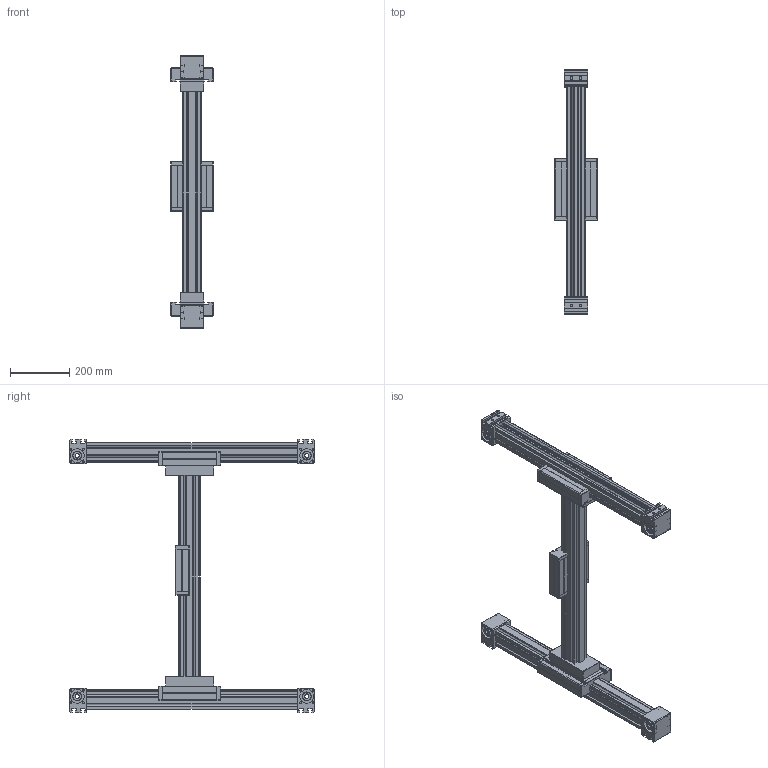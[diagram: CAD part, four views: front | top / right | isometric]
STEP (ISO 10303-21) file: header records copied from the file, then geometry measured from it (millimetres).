
FILE_DESCRIPTION (( 'STEP AP214' ), '1' );
FILE_NAME ('ELZU-60.STEP', '2016-01-14T10:13:25', ( 'admin' ), ( '' ), 'SwSTEP 2.0', 'SolidWorks 2015', '' );
FILE_SCHEMA (( 'AUTOMOTIVE_DESIGN' ));
Length unit declared in the file: millimetre
Products named in the file (10): Umlenkung ELZU 60 - ED; Kopie von Bahr-ELZU-X-Axis - ELZU-607000041926,  Y-Axis - ELZU-608000041830_ELZ60 Carriage (X)^ELZU60 S0 A0_A; Kopie von Bahr-ELZU-X-Axis - ELZU-607000041926,  Y-Axis - ELZU-608000041830_ELZ60 Carriage (Y)^ELZU60 S0 A0_A; Kopie von Bahr-ELZU-X-Axis - ELZU-607000041926,  Y-Axis - ELZU-608000041830_ELZ60 Extrusion (X)^ELZU60 S0 A0_0; Kopie von Bahr-ELZU-X-Axis - ELZU-607000041926,  Y-Axis - ELZU-608000041830_ELZ60 Extrusion (Y)^ELZU60 S0 A0_0; Kopie von Bahr-ELZU-X-Axis - ELZU-607000041926,  Y-Axis - ELZU-608000041830_End_Block(4)^ELZU60 S0 A0_ELZ-60-B; Kopie von Bahr-ELZU-X-Axis - ELZU-607000041926,  Y-Axis - ELZU-608000041830_End_Block(3)^ELZU60 S0 A0_ELZ-60-A; Kopie von Bahr-ELZU-X-Axis - ELZU-607000041926,  Y-Axis - ELZU-608000041830_End_Block(2)^ELZU60 S0 A0_ELZ-60-A; Kopie von Bahr-ELZU-X-Axis - ELZU-607000041926,  Y-Axis - ELZU-608000041830_End_Block(1)^ELZU60 S0 A0_ELZ-60-B; ELZU-60
Assembly tree (12 placements, depth 2):
  ELZU-60
    Kopie von Bahr-ELZU-X-Axis - ELZU-607000041926,  Y-Axis - ELZU-608000041830_End_Block(1)^ELZU60 S0 A0_ELZ-60-B
    Kopie von Bahr-ELZU-X-Axis - ELZU-607000041926,  Y-Axis - ELZU-608000041830_End_Block(2)^ELZU60 S0 A0_ELZ-60-A
    Kopie von Bahr-ELZU-X-Axis - ELZU-607000041926,  Y-Axis - ELZU-608000041830_End_Block(3)^ELZU60 S0 A0_ELZ-60-A
    Kopie von Bahr-ELZU-X-Axis - ELZU-607000041926,  Y-Axis - ELZU-608000041830_End_Block(4)^ELZU60 S0 A0_ELZ-60-B
    Kopie von Bahr-ELZU-X-Axis - ELZU-607000041926,  Y-Axis - ELZU-608000041830_ELZ60 Extrusion (Y)^ELZU60 S0 A0_0  x2
    Kopie von Bahr-ELZU-X-Axis - ELZU-607000041926,  Y-Axis - ELZU-608000041830_ELZ60 Extrusion (X)^ELZU60 S0 A0_0
    Kopie von Bahr-ELZU-X-Axis - ELZU-607000041926,  Y-Axis - ELZU-608000041830_ELZ60 Carriage (Y)^ELZU60 S0 A0_A  x2
    Kopie von Bahr-ELZU-X-Axis - ELZU-607000041926,  Y-Axis - ELZU-608000041830_ELZ60 Carriage (X)^ELZU60 S0 A0_A
    Umlenkung ELZU 60 - ED  x2
Bounding box: 144 x 830 x 926 mm (x, y, z)
Volume: 11881640.2 mm3; surface area: 1664587.4 mm2
Topology: 28 solids, 28 shells, 1075 faces, 2829 edges, 1854 vertices
Faces by surface type: plane 698, cylinder 337, torus 24, cone 8, sphere 8
Entity records: 26145 total; most frequent: DIRECTION 4432, CARTESIAN_POINT 4431, ORIENTED_EDGE 4324, EDGE_CURVE 2162, VECTOR 1582, LINE 1582, AXIS2_PLACEMENT_3D 1425, VERTEX_POINT 1424
